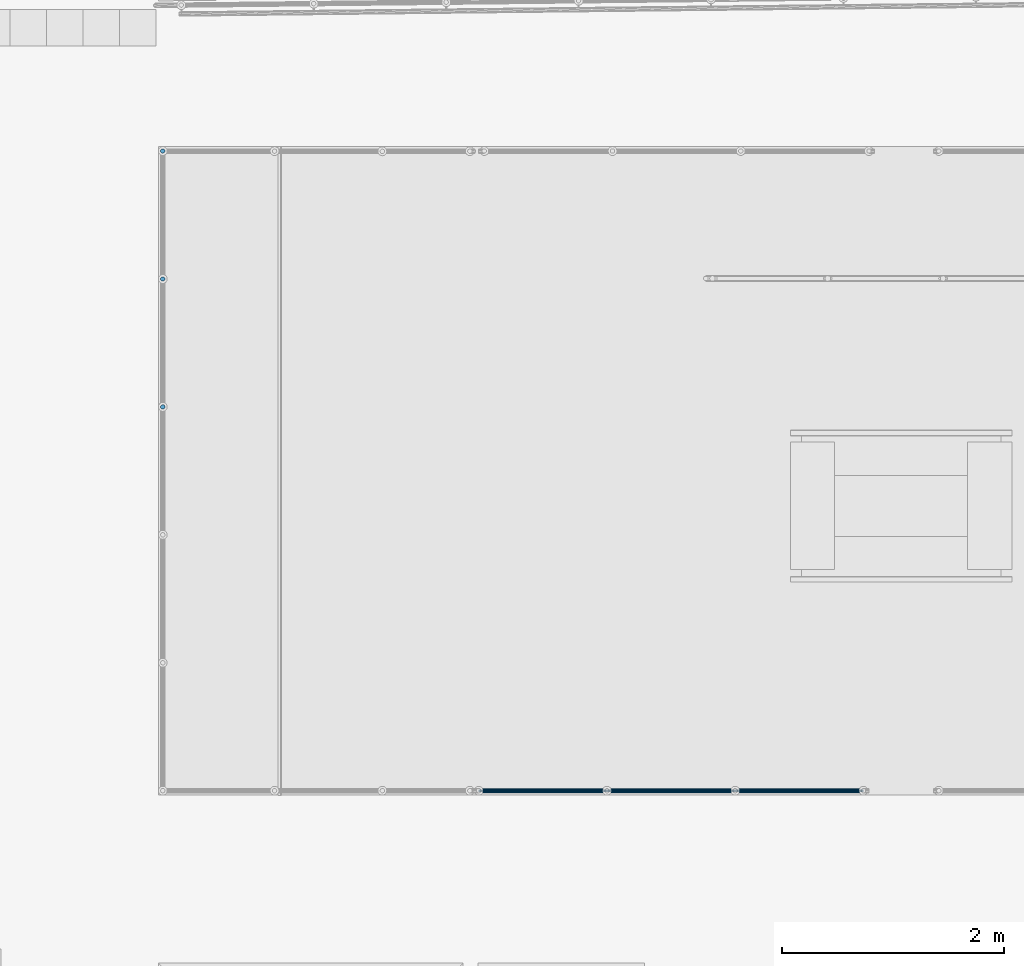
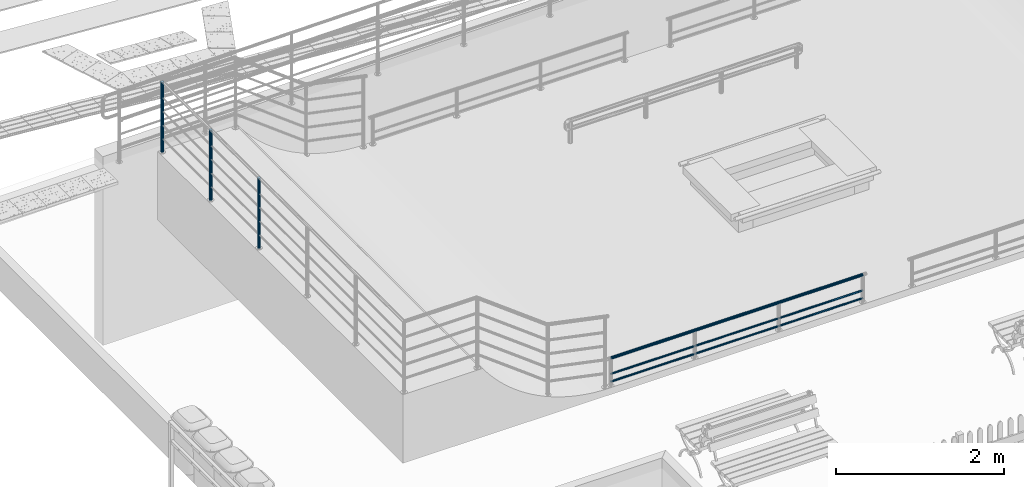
# One storey, part 31 of 237: 6 building element parts, 2 elements without a shape of their own.
"""IFC2X3 building model written with IfcOpenShell, lengths in millimetres."""

import ifcopenshell
import ifcopenshell.guid

model = None  # the IFC model being written
_history = None  # IfcOwnerHistory: only IFC2X3 demands one
_inside = {}  # id of a spatial element -> (the spatial element, [elements in it])
_under = {}  # id of a project, library or spatial element -> (it, [spatial elements below it])
_declared = {}  # id of a project -> (the project, [libraries it declares])
_typed = {}  # id of a type object -> (the type object, [elements of that type])
_made_of = {}  # id of a material, layer set ... -> (it, [elements and type objects made of it])


def new_model(schema):
    """Start an empty IFC model of exactly this schema.

    Asked for "IFC4X3", IfcOpenShell would pick the latest addendum, in which some entities
    have other attributes; the version numbers below select the first issue.
    IFC2X3 requires an IfcOwnerHistory on every rooted entity: one is made here for all.
    """
    global model, _history
    if schema == "IFC4X3":
        model = ifcopenshell.file(schema_version=(4, 3, 0, 0))
    else:
        model = ifcopenshell.file(schema=schema)
    _inside.clear()
    _under.clear()
    _declared.clear()
    _typed.clear()
    _made_of.clear()
    _history = None
    if model.schema == "IFC2X3":
        org = make("IfcOrganization", Name="unknown")
        user = make(
            "IfcPersonAndOrganization",
            ThePerson=make("IfcPerson", FamilyName="unknown"),
            TheOrganization=org,
        )
        app = make(
            "IfcApplication",
            ApplicationDeveloper=org,
            Version="unknown",
            ApplicationFullName="unknown",
            ApplicationIdentifier="unknown",
        )
        _history = make(
            "IfcOwnerHistory",
            OwningUser=user,
            OwningApplication=app,
            ChangeAction="ADDED",
            CreationDate=0,
        )
    return model


def make(cls, **values):
    """One entity of the class cls with the attributes given. An attribute that is None is left unset."""
    return model.create_entity(
        cls, **{name: value for name, value in values.items() if value is not None}
    )


def entity(cls, *values):
    """Any entity or typed value of the class cls, its attributes in the order of the schema. None: left unset."""
    e = model.create_entity(cls)
    for i, value in enumerate(values):
        if value is not None:
            e[i] = value
    return e


def rooted(cls, **values):
    """An entity with a GlobalId (a new one), such as an element, a storey or a relation."""
    return make(cls, GlobalId=ifcopenshell.guid.new(), OwnerHistory=_history, **values)


def si_unit(unit_type, name, prefix=None):
    """IfcSIUnit, for example si_unit("LENGTHUNIT", "METRE", prefix="MILLI")."""
    return make("IfcSIUnit", UnitType=unit_type, Prefix=prefix, Name=name)


def converted_unit(unit_type, name, factor, base, dimensions=None, offset=None):
    """IfcConversionBasedUnit, such as the inch: factor (a typed value) times the base unit."""
    return make(
        "IfcConversionBasedUnit"
        if offset is None
        else "IfcConversionBasedUnitWithOffset",
        ConversionOffset=offset,
        Dimensions=None
        if dimensions is None
        else entity("IfcDimensionalExponents", *dimensions),
        UnitType=unit_type,
        Name=name,
        ConversionFactor=make(
            "IfcMeasureWithUnit", ValueComponent=factor, UnitComponent=base
        ),
    )


def derived_unit(unit_type, elements):
    """IfcDerivedUnit: a product of units, each with its exponent."""
    return make(
        "IfcDerivedUnit",
        Elements=[
            make("IfcDerivedUnitElement", Unit=unit, Exponent=power)
            for unit, power in elements
        ],
        UnitType=unit_type,
    )


def money_unit(currency):
    """IfcMonetaryUnit."""
    return make("IfcMonetaryUnit", Currency=currency)


def assignment(units):
    """IfcUnitAssignment: the units of a project."""
    return None if units is None else make("IfcUnitAssignment", Units=units)


def point(xyz):
    """IfcCartesianPoint."""
    return None if xyz is None else make("IfcCartesianPoint", Coordinates=xyz)


def direction(xyz):
    """IfcDirection."""
    return None if xyz is None else make("IfcDirection", DirectionRatios=xyz)


def frame(location, z_axis=None, x_axis=None):
    """IfcAxis2Placement3D, a coordinate frame: its origin and axes. An axis left out is left unset."""
    return make(
        "IfcAxis2Placement3D",
        Location=point(location),
        Axis=direction(z_axis),
        RefDirection=direction(x_axis),
    )


def origin_with_axes():
    """The frame at (0, 0, 0) with the z axis (0, 0, 1) and the x axis (1, 0, 0) written out."""
    return frame((0.0, 0.0, 0.0), z_axis=(0.0, 0.0, 1.0), x_axis=(1.0, 0.0, 0.0))


def place(relative_to, where):
    """IfcLocalPlacement: puts the frame where relative to a parent placement (None: the world)."""
    return make(
        "IfcLocalPlacement", PlacementRelTo=relative_to, RelativePlacement=where
    )


def context(
    kind, dimensions, precision=None, world=None, true_north=None, identifier=None
):
    """IfcGeometricRepresentationContext, for example the 3D "Model" context."""
    return make(
        "IfcGeometricRepresentationContext",
        ContextIdentifier=identifier,
        ContextType=kind,
        CoordinateSpaceDimension=dimensions,
        Precision=precision,
        WorldCoordinateSystem=world,
        TrueNorth=true_north,
    )


def subcontext(parent, identifier, kind, view, scale=None):
    """IfcGeometricRepresentationSubContext, for example "Body" below "Model"."""
    return make(
        "IfcGeometricRepresentationSubContext",
        ContextIdentifier=identifier,
        ContextType=kind,
        ParentContext=parent,
        TargetScale=scale,
        TargetView=view,
    )


def project(units=None, contexts=None):
    """IfcProject with its units and contexts."""
    return rooted(
        "IfcProject",
        Name="project",
        RepresentationContexts=contexts,
        UnitsInContext=assignment(units),
    )


def spatial(cls, under=None, at=None, **own):
    """A site, building, storey or space (cls), placed at a placement, below another one or the project."""
    s = rooted(cls, ObjectPlacement=at, **own)
    if under is not None:
        _under.setdefault(under.id(), (under, []))[1].append(s)
    return s


def faces_of(points, faces, orient=None, outer=None):
    """IfcFace entities. A face is a list of loops; a loop is a list of indices into points, from 0.

    orient and outer hold one flag for each loop. By default every Orientation is true, the
    first loop of a face is its IfcFaceOuterBound and the others are IfcFaceBound.
    """
    made = []
    for i, loops in enumerate(faces):
        bounds = []
        for j, loop in enumerate(loops):
            is_outer = j == 0 if outer is None else outer[i][j]
            bounds.append(
                make(
                    "IfcFaceOuterBound" if is_outer else "IfcFaceBound",
                    Bound=make("IfcPolyLoop", Polygon=[points[k] for k in loop]),
                    Orientation=True if orient is None else orient[i][j],
                )
            )
        made.append(make("IfcFace", Bounds=bounds))
    return made


def faceted_brep(points, faces, orient=None, outer=None, voids=None):
    """IfcFacetedBrep: a solid bounded by flat faces; with voids (closed shells), ...WithVoids."""
    shared = [point(p) for p in points]
    hull = make("IfcClosedShell", CfsFaces=faces_of(shared, faces, orient, outer))
    if voids is None:
        return make("IfcFacetedBrep", Outer=hull)
    return make(
        "IfcFacetedBrepWithVoids",
        Outer=hull,
        Voids=[
            make(cls, CfsFaces=faces_of(shared, fs, o, b)) for cls, fs, o, b in voids
        ],
    )


def shape(context_of_items, identifier, shape_type, items):
    """IfcShapeRepresentation: the items that make up one representation, for example the "Body"."""
    return make(
        "IfcShapeRepresentation",
        ContextOfItems=context_of_items,
        RepresentationIdentifier=identifier,
        RepresentationType=shape_type,
        Items=items,
    )


def material(Name=None, Category=None):
    """IfcMaterial."""
    return make("IfcMaterial", Name=Name, Category=Category)


def made_of(thing, what):
    """Note that an element or type object is made of a material, layer set ...; save() writes the relation."""
    if what is not None:
        _made_of.setdefault(what.id(), (what, []))[1].append(thing)
    return thing


def type_object(cls, material=None, **own):
    """A type object (cls), such as IfcWallType, which elements share."""
    return made_of(rooted(cls, **own), material)


def element(
    cls,
    number,
    at=None,
    inside=None,
    cuts=None,
    type_object=None,
    material=None,
    context=None,
    identifier="Body",
    shape_type=None,
    held_by="IfcProductDefinitionShape",
    body=None,
    shapes=None,
    **own,
):
    """One element of the class cls, such as IfcWall. Its Tag is "e" and its number.

    at: its placement. inside: the storey or other place that contains it. cuts: it is an
    opening in that element (IfcRelVoidsElement). A single representation is given by context,
    identifier, shape_type and body (its items); several are given by shapes. held_by: the class
    of the entity that holds the representations. save() writes the other relations.
    """
    e = rooted(cls, Tag="e%d" % number, ObjectPlacement=at, **own)
    if body is not None:
        shapes = [shape(context, identifier, shape_type, body)]
    if shapes is not None:
        e.Representation = make(held_by, Representations=shapes)
    if inside is not None:
        _inside.setdefault(inside.id(), (inside, []))[1].append(e)
    if cuts is not None:
        rooted(
            "IfcRelVoidsElement", RelatingBuildingElement=cuts, RelatedOpeningElement=e
        )
    if type_object is not None:
        _typed.setdefault(type_object.id(), (type_object, []))[1].append(e)
    return made_of(e, material)


def aggregate(whole, parts):
    """IfcRelAggregates: a whole, such as a stair, and the parts it consists of."""
    return rooted("IfcRelAggregates", RelatingObject=whole, RelatedObjects=parts)


def save(model, path):
    """Write the relations noted so far, then the file.

    IfcRelAggregates (storeys below a building ...), IfcRelContainedInSpatialStructure (elements
    in a storey), IfcRelDefinesByType, IfcRelAssociatesMaterial and IfcRelDeclares: one each for
    every whole, place, type object, material and project.
    """
    for whole, parts in _under.values():
        aggregate(whole, parts)
    for where, things in _inside.values():
        rooted(
            "IfcRelContainedInSpatialStructure",
            RelatedElements=things,
            RelatingStructure=where,
        )
    for kind, things in _typed.values():
        rooted("IfcRelDefinesByType", RelatedObjects=things, RelatingType=kind)
    for what, things in _made_of.values():
        rooted("IfcRelAssociatesMaterial", RelatedObjects=things, RelatingMaterial=what)
    for by, libraries in _declared.values():
        rooted("IfcRelDeclares", RelatingContext=by, RelatedDefinitions=libraries)
    model.write(path)


model = new_model("IFC2X3")

# Units and contexts
model_context = context("Model", 3, precision=0.01, world=origin_with_axes(), true_north=direction((0.0, 1.0)))
body_context = subcontext(model_context, "Body", "Model", "MODEL_VIEW")
ifc_project = project(units=[si_unit("LENGTHUNIT", "METRE", prefix="MILLI"), si_unit("AREAUNIT", "SQUARE_METRE"), si_unit("VOLUMEUNIT", "CUBIC_METRE"), converted_unit("PLANEANGLEUNIT", "DEGREE", entity("IfcPlaneAngleMeasure", 0.0174532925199), si_unit("PLANEANGLEUNIT", "RADIAN"), dimensions=[0, 0, 0, 0, 0, 0, 0]), money_unit("USD"), converted_unit("TIMEUNIT", "Year", entity("IfcTimeMeasure", 31556926.0), si_unit("TIMEUNIT", "SECOND"), dimensions=[0, 0, 1, 0, 0, 0, 0]), si_unit("MASSUNIT", "GRAM", prefix="KILO"), si_unit("THERMODYNAMICTEMPERATUREUNIT", "DEGREE_CELSIUS"), si_unit("LUMINOUSINTENSITYUNIT", "LUMEN"), si_unit("ENERGYUNIT", "JOULE", prefix="MEGA"), derived_unit("THERMALCONDUCTANCEUNIT", [(si_unit("POWERUNIT", "WATT"), 1), (si_unit("LENGTHUNIT", "METRE"), -1), (si_unit("THERMODYNAMICTEMPERATUREUNIT", "KELVIN"), -1)]), derived_unit("SPECIFICHEATCAPACITYUNIT", [(si_unit("ENERGYUNIT", "JOULE"), 1), (si_unit("MASSUNIT", "GRAM", prefix="KILO"), -1), (si_unit("THERMODYNAMICTEMPERATUREUNIT", "KELVIN"), -1)]), derived_unit("MASSDENSITYUNIT", [(si_unit("MASSUNIT", "GRAM", prefix="KILO"), 1), (si_unit("VOLUMEUNIT", "CUBIC_METRE"), -1)])], contexts=[model_context])

# Site, building, storey
site_placement = place(None, origin_with_axes())
site = spatial("IfcSite", under=ifc_project, at=site_placement, Name="Local", CompositionType="ELEMENT")
building_placement = place(site_placement, origin_with_axes())
building = spatial("IfcBuilding", under=site, at=building_placement, Name="Construção", CompositionType="ELEMENT")
storey_placement = place(building_placement, origin_with_axes())
storey = spatial("IfcBuildingStorey", under=building, at=storey_placement, Name="Pavimento Térreo", CompositionType="ELEMENT", Elevation=0.0)

# Railing, building element parts
railing_type = type_object("IfcRailingType", Name="Tipo de Guarda-Corpo", PredefinedType="NOTDEFINED")
railing_1_placement = place(storey_placement, frame((53912.4440926, 33356.4497128, -1263.04952679), z_axis=(0.0, 0.0, 1.0), x_axis=(1.0, 0.0, 0.0)))
railing_1 = element("IfcRailing", 1, at=railing_1_placement, inside=storey, type_object=railing_type, Name="Guarda-Corpo - 001", PredefinedType="NOTDEFINED")
ifc_material = material(Name="Aço - Inoxidável")
building_element_part_1_placement = place(railing_1_placement, origin_with_axes())
building_element_part_1 = element("IfcBuildingElementPart", 2, at=building_element_part_1_placement, material=ifc_material, Name="Aço - Inoxidável", context=body_context, shape_type="Brep", body=[
    faceted_brep([(-2806.51268664, 518.151005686, 910.941330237), (-2809.98542789, 518.457380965, 910.941330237), (-2809.98542789, 518.457380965, 1935.94133024), (-2806.51268664, 518.151005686, 1935.94133024), (-2813.4586119, 518.156066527, 910.941330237), (-2803.14590564, 517.246249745, 910.941330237), (-2799.98738284, 515.770603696, 910.941330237), (-2797.13308833, 513.768904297, 910.941330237), (-2794.66974843, 511.30197217, 910.941330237), (-2792.67221047, 508.444763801, 910.941330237), (-2791.20116862, 505.284094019, 910.941330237), (-2790.30131975, 501.915998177, 910.941330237), (-2790.00000531, 498.442814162, 910.941330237), (-2790.30638059, 494.970072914, 910.941330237), (-2791.21113653, 491.603291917, 910.941330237), (-2792.68678258, 488.444769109, 910.941330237), (-2794.68848198, 485.590474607, 910.941330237), (-2797.1554141, 483.127134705, 910.941330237), (-2800.01262247, 481.12959674, 910.941330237), (-2803.17329226, 479.658554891, 910.941330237), (-2806.5413881, 478.758706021, 910.941330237), (-2810.01457211, 478.457391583, 910.941330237), (-2813.48731336, 478.763766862, 910.941330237), (-2816.85409436, 479.668522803, 910.941330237), (-2820.01261716, 481.144168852, 910.941330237), (-2822.86691167, 483.145868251, 910.941330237), (-2825.33025157, 485.612800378, 910.941330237), (-2827.32778953, 488.470008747, 910.941330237), (-2828.79883138, 491.630678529, 910.941330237), (-2829.69868025, 494.998774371, 910.941330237), (-2829.99999469, 498.471958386, 910.941330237), (-2829.69361941, 501.944699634, 910.941330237), (-2828.78886347, 505.311480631, 910.941330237), (-2827.31321742, 508.470003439, 910.941330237), (-2825.31151802, 511.324297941, 910.941330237), (-2822.8445859, 513.787637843, 910.941330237), (-2819.98737753, 515.785175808, 910.941330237), (-2816.82670774, 517.256217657, 910.941330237), (-2813.4586119, 518.156066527, 1935.94133024), (-2790.30638059, 494.970072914, 1935.94133024), (-2790.00000531, 498.442814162, 1935.94133024), (-2790.30131975, 501.915998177, 1935.94133024), (-2791.20116862, 505.284094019, 1935.94133024), (-2792.67221047, 508.444763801, 1935.94133024), (-2794.66974843, 511.30197217, 1935.94133024), (-2797.13308833, 513.768904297, 1935.94133024), (-2799.98738284, 515.770603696, 1935.94133024), (-2803.14590564, 517.246249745, 1935.94133024), (-2816.82670774, 517.256217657, 1935.94133024), (-2819.98737753, 515.785175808, 1935.94133024), (-2822.8445859, 513.787637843, 1935.94133024), (-2825.31151802, 511.324297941, 1935.94133024), (-2827.31321742, 508.470003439, 1935.94133024), (-2828.78886347, 505.311480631, 1935.94133024), (-2829.69361941, 501.944699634, 1935.94133024), (-2829.99999469, 498.471958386, 1935.94133024), (-2829.69868025, 494.998774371, 1935.94133024), (-2828.79883138, 491.630678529, 1935.94133024), (-2827.32778953, 488.470008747, 1935.94133024), (-2825.33025157, 485.612800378, 1935.94133024), (-2822.86691167, 483.145868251, 1935.94133024), (-2820.01261716, 481.144168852, 1935.94133024), (-2816.85409436, 479.668522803, 1935.94133024), (-2813.48731336, 478.763766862, 1935.94133024), (-2810.01457211, 478.457391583, 1935.94133024), (-2806.5413881, 478.758706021, 1935.94133024), (-2803.17329226, 479.658554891, 1935.94133024), (-2800.01262247, 481.12959674, 1935.94133024), (-2797.1554141, 483.127134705, 1935.94133024), (-2794.68848198, 485.590474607, 1935.94133024), (-2792.68678258, 488.444769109, 1935.94133024), (-2791.21113653, 491.603291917, 1935.94133024)], [[[0, 1, 2, 3]], [[4, 1, 0, 5, 6, 7, 8, 9, 10, 11, 12, 13, 14, 15, 16, 17, 18, 19, 20, 21, 22, 23, 24, 25, 26, 27, 28, 29, 30, 31, 32, 33, 34, 35, 36, 37]], [[1, 4, 38, 2]], [[39, 40, 41, 42, 43, 44, 45, 46, 47, 3, 2, 38, 48, 49, 50, 51, 52, 53, 54, 55, 56, 57, 58, 59, 60, 61, 62, 63, 64, 65, 66, 67, 68, 69, 70, 71]], [[5, 0, 3, 47]], [[6, 5, 47, 46]], [[7, 6, 46, 45]], [[8, 7, 45, 44]], [[9, 8, 44, 43]], [[10, 9, 43, 42]], [[11, 10, 42, 41]], [[12, 11, 41, 40]], [[13, 12, 40, 39]], [[14, 13, 39, 71]], [[15, 14, 71, 70]], [[16, 15, 70, 69]], [[17, 16, 69, 68]], [[18, 17, 68, 67]], [[19, 18, 67, 66]], [[20, 19, 66, 65]], [[21, 20, 65, 64]], [[22, 21, 64, 63]], [[23, 22, 63, 62]], [[24, 23, 62, 61]], [[25, 24, 61, 60]], [[26, 25, 60, 59]], [[27, 26, 59, 58]], [[28, 27, 58, 57]], [[29, 28, 57, 56]], [[30, 29, 56, 55]], [[31, 30, 55, 54]], [[32, 31, 54, 53]], [[33, 32, 53, 52]], [[34, 33, 52, 51]], [[35, 34, 51, 50]], [[36, 35, 50, 49]], [[37, 36, 49, 48]], [[4, 37, 48, 38]]]),
])
building_element_part_2_placement = place(railing_1_placement, origin_with_axes())
building_element_part_2 = element("IfcBuildingElementPart", 3, at=building_element_part_2_placement, material=ifc_material, Name="Aço - Inoxidável", context=body_context, shape_type="Brep", body=[
    faceted_brep([(-2829.69615506, -652.063819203, 910.941330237), (-2830.0, -655.536782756, 910.941330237), (-2830.0, -655.536782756, 1935.94133024), (-2829.69615506, -652.063819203, 1935.94133024), (-2829.69615506, -659.00974631, 910.941330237), (-2828.79385242, -648.69637989, 910.941330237), (-2827.32050808, -645.536782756, 910.941330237), (-2825.32088886, -642.681030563, 910.941330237), (-2822.85575219, -640.215893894, 910.941330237), (-2820.0, -638.216274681, 910.941330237), (-2816.84040287, -636.742930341, 910.941330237), (-2813.47296355, -635.840627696, 910.941330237), (-2810.0, -635.536782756, 910.941330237), (-2806.52703645, -635.840627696, 910.941330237), (-2803.15959713, -636.742930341, 910.941330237), (-2800.0, -638.216274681, 910.941330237), (-2797.14424781, -640.215893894, 910.941330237), (-2794.67911114, -642.681030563, 910.941330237), (-2792.67949192, -645.536782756, 910.941330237), (-2791.20614758, -648.69637989, 910.941330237), (-2790.30384494, -652.063819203, 910.941330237), (-2790.0, -655.536782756, 910.941330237), (-2790.30384494, -659.00974631, 910.941330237), (-2791.20614758, -662.377185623, 910.941330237), (-2792.67949192, -665.536782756, 910.941330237), (-2794.67911114, -668.39253495, 910.941330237), (-2797.14424781, -670.857671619, 910.941330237), (-2800.0, -672.857290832, 910.941330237), (-2803.15959713, -674.330635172, 910.941330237), (-2806.52703645, -675.232937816, 910.941330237), (-2810.0, -675.536782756, 910.941330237), (-2813.47296355, -675.232937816, 910.941330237), (-2816.84040287, -674.330635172, 910.941330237), (-2820.0, -672.857290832, 910.941330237), (-2822.85575219, -670.857671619, 910.941330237), (-2825.32088886, -668.39253495, 910.941330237), (-2827.32050808, -665.536782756, 910.941330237), (-2828.79385242, -662.377185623, 910.941330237), (-2829.69615506, -659.00974631, 1935.94133024), (-2806.52703645, -635.840627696, 1935.94133024), (-2810.0, -635.536782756, 1935.94133024), (-2813.47296355, -635.840627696, 1935.94133024), (-2816.84040287, -636.742930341, 1935.94133024), (-2820.0, -638.216274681, 1935.94133024), (-2822.85575219, -640.215893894, 1935.94133024), (-2825.32088886, -642.681030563, 1935.94133024), (-2827.32050808, -645.536782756, 1935.94133024), (-2828.79385242, -648.69637989, 1935.94133024), (-2828.79385242, -662.377185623, 1935.94133024), (-2827.32050808, -665.536782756, 1935.94133024), (-2825.32088886, -668.39253495, 1935.94133024), (-2822.85575219, -670.857671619, 1935.94133024), (-2820.0, -672.857290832, 1935.94133024), (-2816.84040287, -674.330635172, 1935.94133024), (-2813.47296355, -675.232937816, 1935.94133024), (-2810.0, -675.536782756, 1935.94133024), (-2806.52703645, -675.232937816, 1935.94133024), (-2803.15959713, -674.330635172, 1935.94133024), (-2800.0, -672.857290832, 1935.94133024), (-2797.14424781, -670.857671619, 1935.94133024), (-2794.67911114, -668.39253495, 1935.94133024), (-2792.67949192, -665.536782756, 1935.94133024), (-2791.20614758, -662.377185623, 1935.94133024), (-2790.30384494, -659.00974631, 1935.94133024), (-2790.0, -655.536782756, 1935.94133024), (-2790.30384494, -652.063819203, 1935.94133024), (-2791.20614758, -648.69637989, 1935.94133024), (-2792.67949192, -645.536782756, 1935.94133024), (-2794.67911114, -642.681030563, 1935.94133024), (-2797.14424781, -640.215893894, 1935.94133024), (-2800.0, -638.216274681, 1935.94133024), (-2803.15959713, -636.742930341, 1935.94133024)], [[[0, 1, 2, 3]], [[4, 1, 0, 5, 6, 7, 8, 9, 10, 11, 12, 13, 14, 15, 16, 17, 18, 19, 20, 21, 22, 23, 24, 25, 26, 27, 28, 29, 30, 31, 32, 33, 34, 35, 36, 37]], [[1, 4, 38, 2]], [[39, 40, 41, 42, 43, 44, 45, 46, 47, 3, 2, 38, 48, 49, 50, 51, 52, 53, 54, 55, 56, 57, 58, 59, 60, 61, 62, 63, 64, 65, 66, 67, 68, 69, 70, 71]], [[5, 0, 3, 47]], [[6, 5, 47, 46]], [[7, 6, 46, 45]], [[8, 7, 45, 44]], [[9, 8, 44, 43]], [[10, 9, 43, 42]], [[11, 10, 42, 41]], [[12, 11, 41, 40]], [[13, 12, 40, 39]], [[14, 13, 39, 71]], [[15, 14, 71, 70]], [[16, 15, 70, 69]], [[17, 16, 69, 68]], [[18, 17, 68, 67]], [[19, 18, 67, 66]], [[20, 19, 66, 65]], [[21, 20, 65, 64]], [[22, 21, 64, 63]], [[23, 22, 63, 62]], [[24, 23, 62, 61]], [[25, 24, 61, 60]], [[26, 25, 60, 59]], [[27, 26, 59, 58]], [[28, 27, 58, 57]], [[29, 28, 57, 56]], [[30, 29, 56, 55]], [[31, 30, 55, 54]], [[32, 31, 54, 53]], [[33, 32, 53, 52]], [[34, 33, 52, 51]], [[35, 34, 51, 50]], [[36, 35, 50, 49]], [[37, 36, 49, 48]], [[4, 37, 48, 38]]]),
])
building_element_part_3_placement = place(railing_1_placement, origin_with_axes())
building_element_part_3 = element("IfcBuildingElementPart", 4, at=building_element_part_3_placement, material=ifc_material, Name="Aço - Inoxidável", context=body_context, shape_type="Brep", body=[
    faceted_brep([(-2829.69615506, -1806.05798823, 910.941330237), (-2830.0, -1809.53095179, 910.941330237), (-2830.0, -1809.53095179, 1935.94133024), (-2829.69615506, -1806.05798823, 1935.94133024), (-2829.69615506, -1813.00391534, 910.941330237), (-2828.79385242, -1802.69054892, 910.941330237), (-2827.32050808, -1799.53095179, 910.941330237), (-2825.32088886, -1796.67519959, 910.941330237), (-2822.85575219, -1794.21006292, 910.941330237), (-2820.0, -1792.21044371, 910.941330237), (-2816.84040287, -1790.73709937, 910.941330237), (-2813.47296355, -1789.83479673, 910.941330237), (-2810.0, -1789.53095179, 910.941330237), (-2806.52703645, -1789.83479673, 910.941330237), (-2803.15959713, -1790.73709937, 910.941330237), (-2800.0, -1792.21044371, 910.941330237), (-2797.14424781, -1794.21006292, 910.941330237), (-2794.67911114, -1796.67519959, 910.941330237), (-2792.67949192, -1799.53095179, 910.941330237), (-2791.20614758, -1802.69054892, 910.941330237), (-2790.30384494, -1806.05798823, 910.941330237), (-2790.0, -1809.53095179, 910.941330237), (-2790.30384494, -1813.00391534, 910.941330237), (-2791.20614758, -1816.37135465, 910.941330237), (-2792.67949192, -1819.53095179, 910.941330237), (-2794.67911114, -1822.38670398, 910.941330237), (-2797.14424781, -1824.85184065, 910.941330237), (-2800.0, -1826.85145986, 910.941330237), (-2803.15959713, -1828.3248042, 910.941330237), (-2806.52703645, -1829.22710685, 910.941330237), (-2810.0, -1829.53095179, 910.941330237), (-2813.47296355, -1829.22710685, 910.941330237), (-2816.84040287, -1828.3248042, 910.941330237), (-2820.0, -1826.85145986, 910.941330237), (-2822.85575219, -1824.85184065, 910.941330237), (-2825.32088886, -1822.38670398, 910.941330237), (-2827.32050808, -1819.53095179, 910.941330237), (-2828.79385242, -1816.37135465, 910.941330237), (-2829.69615506, -1813.00391534, 1935.94133024), (-2806.52703645, -1789.83479673, 1935.94133024), (-2810.0, -1789.53095179, 1935.94133024), (-2813.47296355, -1789.83479673, 1935.94133024), (-2816.84040287, -1790.73709937, 1935.94133024), (-2820.0, -1792.21044371, 1935.94133024), (-2822.85575219, -1794.21006292, 1935.94133024), (-2825.32088886, -1796.67519959, 1935.94133024), (-2827.32050808, -1799.53095179, 1935.94133024), (-2828.79385242, -1802.69054892, 1935.94133024), (-2828.79385242, -1816.37135465, 1935.94133024), (-2827.32050808, -1819.53095179, 1935.94133024), (-2825.32088886, -1822.38670398, 1935.94133024), (-2822.85575219, -1824.85184065, 1935.94133024), (-2820.0, -1826.85145986, 1935.94133024), (-2816.84040287, -1828.3248042, 1935.94133024), (-2813.47296355, -1829.22710685, 1935.94133024), (-2810.0, -1829.53095179, 1935.94133024), (-2806.52703645, -1829.22710685, 1935.94133024), (-2803.15959713, -1828.3248042, 1935.94133024), (-2800.0, -1826.85145986, 1935.94133024), (-2797.14424781, -1824.85184065, 1935.94133024), (-2794.67911114, -1822.38670398, 1935.94133024), (-2792.67949192, -1819.53095179, 1935.94133024), (-2791.20614758, -1816.37135465, 1935.94133024), (-2790.30384494, -1813.00391534, 1935.94133024), (-2790.0, -1809.53095179, 1935.94133024), (-2790.30384494, -1806.05798823, 1935.94133024), (-2791.20614758, -1802.69054892, 1935.94133024), (-2792.67949192, -1799.53095179, 1935.94133024), (-2794.67911114, -1796.67519959, 1935.94133024), (-2797.14424781, -1794.21006292, 1935.94133024), (-2800.0, -1792.21044371, 1935.94133024), (-2803.15959713, -1790.73709937, 1935.94133024)], [[[0, 1, 2, 3]], [[4, 1, 0, 5, 6, 7, 8, 9, 10, 11, 12, 13, 14, 15, 16, 17, 18, 19, 20, 21, 22, 23, 24, 25, 26, 27, 28, 29, 30, 31, 32, 33, 34, 35, 36, 37]], [[1, 4, 38, 2]], [[39, 40, 41, 42, 43, 44, 45, 46, 47, 3, 2, 38, 48, 49, 50, 51, 52, 53, 54, 55, 56, 57, 58, 59, 60, 61, 62, 63, 64, 65, 66, 67, 68, 69, 70, 71]], [[5, 0, 3, 47]], [[6, 5, 47, 46]], [[7, 6, 46, 45]], [[8, 7, 45, 44]], [[9, 8, 44, 43]], [[10, 9, 43, 42]], [[11, 10, 42, 41]], [[12, 11, 41, 40]], [[13, 12, 40, 39]], [[14, 13, 39, 71]], [[15, 14, 71, 70]], [[16, 15, 70, 69]], [[17, 16, 69, 68]], [[18, 17, 68, 67]], [[19, 18, 67, 66]], [[20, 19, 66, 65]], [[21, 20, 65, 64]], [[22, 21, 64, 63]], [[23, 22, 63, 62]], [[24, 23, 62, 61]], [[25, 24, 61, 60]], [[26, 25, 60, 59]], [[27, 26, 59, 58]], [[28, 27, 58, 57]], [[29, 28, 57, 56]], [[30, 29, 56, 55]], [[31, 30, 55, 54]], [[32, 31, 54, 53]], [[33, 32, 53, 52]], [[34, 33, 52, 51]], [[35, 34, 51, 50]], [[36, 35, 50, 49]], [[37, 36, 49, 48]], [[4, 37, 48, 38]]]),
])
aggregate(railing_1, [building_element_part_1, building_element_part_2, building_element_part_3])

railing_2_placement = place(storey_placement, frame((53912.4440926, 28006.4497128, -1887.10818411), z_axis=(0.0, 0.0, 1.0), x_axis=(1.0, 0.0, 0.0)))
railing_2 = element("IfcRailing", 5, at=railing_2_placement, inside=storey, type_object=railing_type, Name="Guarda-Corpo - 002", PredefinedType="NOTDEFINED")
building_element_part_4_placement = place(railing_2_placement, origin_with_axes())
building_element_part_4 = element("IfcBuildingElementPart", 6, at=building_element_part_4_placement, material=ifc_material, Name="Aço - Inoxidável", context=body_context, shape_type="Brep", body=[
    faceted_brep([(40.0, 98.4865411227, 1030.0), (40.0, 98.182696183, 1033.47296355), (3510.0, 98.182696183, 1033.47296355), (3510.0, 98.4865411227, 1030.0), (40.0, 98.182696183, 1026.52703645), (40.0, 97.2803935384, 1023.15959713), (40.0, 95.8070491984, 1020.0), (40.0, 93.8074299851, 1017.14424781), (40.0, 91.3422933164, 1014.67911114), (40.0, 88.4865411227, 1012.67949192), (40.0, 85.3269439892, 1011.20614758), (40.0, 81.9595046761, 1010.30384494), (40.0, 78.4865411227, 1010.0), (40.0, 75.0135775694, 1010.30384494), (40.0, 71.6461382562, 1011.20614758), (40.0, 68.4865411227, 1012.67949192), (40.0, 65.630788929, 1014.67911114), (40.0, 63.1656522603, 1017.14424781), (40.0, 61.166033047, 1020.0), (40.0, 59.692688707, 1023.15959713), (40.0, 58.7903860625, 1026.52703645), (40.0, 58.4865411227, 1030.0), (40.0, 58.7903860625, 1033.47296355), (40.0, 59.692688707, 1036.84040287), (40.0, 61.166033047, 1040.0), (40.0, 63.1656522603, 1042.85575219), (40.0, 65.630788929, 1045.32088886), (40.0, 68.4865411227, 1047.32050808), (40.0, 71.6461382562, 1048.79385242), (40.0, 75.0135775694, 1049.69615506), (40.0, 78.4865411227, 1050.0), (40.0, 81.9595046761, 1049.69615506), (40.0, 85.3269439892, 1048.79385242), (40.0, 88.4865411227, 1047.32050808), (40.0, 91.3422933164, 1045.32088886), (40.0, 93.8074299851, 1042.85575219), (40.0, 95.8070491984, 1040.0), (40.0, 97.2803935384, 1036.84040287), (3510.0, 97.2803935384, 1036.84040287), (3510.0, 95.8070491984, 1040.0), (3510.0, 93.8074299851, 1042.85575219), (3510.0, 91.3422933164, 1045.32088886), (3510.0, 88.4865411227, 1047.32050808), (3510.0, 85.3269439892, 1048.79385242), (3510.0, 81.9595046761, 1049.69615506), (3510.0, 78.4865411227, 1050.0), (3510.0, 75.0135775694, 1049.69615506), (3510.0, 71.6461382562, 1048.79385242), (3510.0, 68.4865411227, 1047.32050808), (3510.0, 65.630788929, 1045.32088886), (3510.0, 63.1656522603, 1042.85575219), (3510.0, 61.166033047, 1040.0), (3510.0, 59.692688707, 1036.84040287), (3510.0, 58.7903860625, 1033.47296355), (3510.0, 58.4865411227, 1030.0), (3510.0, 58.7903860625, 1026.52703645), (3510.0, 59.692688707, 1023.15959713), (3510.0, 61.166033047, 1020.0), (3510.0, 63.1656522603, 1017.14424781), (3510.0, 65.630788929, 1014.67911114), (3510.0, 68.4865411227, 1012.67949192), (3510.0, 71.6461382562, 1011.20614758), (3510.0, 75.0135775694, 1010.30384494), (3510.0, 78.4865411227, 1010.0), (3510.0, 81.9595046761, 1010.30384494), (3510.0, 85.3269439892, 1011.20614758), (3510.0, 88.4865411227, 1012.67949192), (3510.0, 91.3422933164, 1014.67911114), (3510.0, 93.8074299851, 1017.14424781), (3510.0, 95.8070491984, 1020.0), (3510.0, 97.2803935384, 1023.15959713), (3510.0, 98.182696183, 1026.52703645)], [[[0, 1, 2, 3]], [[0, 4, 5, 6, 7, 8, 9, 10, 11, 12, 13, 14, 15, 16, 17, 18, 19, 20, 21, 22, 23, 24, 25, 26, 27, 28, 29, 30, 31, 32, 33, 34, 35, 36, 37, 1]], [[1, 37, 38, 2]], [[3, 2, 38, 39, 40, 41, 42, 43, 44, 45, 46, 47, 48, 49, 50, 51, 52, 53, 54, 55, 56, 57, 58, 59, 60, 61, 62, 63, 64, 65, 66, 67, 68, 69, 70, 71]], [[4, 0, 3, 71]], [[5, 4, 71, 70]], [[6, 5, 70, 69]], [[7, 6, 69, 68]], [[8, 7, 68, 67]], [[9, 8, 67, 66]], [[10, 9, 66, 65]], [[11, 10, 65, 64]], [[12, 11, 64, 63]], [[13, 12, 63, 62]], [[14, 13, 62, 61]], [[15, 14, 61, 60]], [[16, 15, 60, 59]], [[17, 16, 59, 58]], [[18, 17, 58, 57]], [[19, 18, 57, 56]], [[20, 19, 56, 55]], [[21, 20, 55, 54]], [[22, 21, 54, 53]], [[23, 22, 53, 52]], [[24, 23, 52, 51]], [[25, 24, 51, 50]], [[26, 25, 50, 49]], [[27, 26, 49, 48]], [[28, 27, 48, 47]], [[29, 28, 47, 46]], [[30, 29, 46, 45]], [[31, 30, 45, 44]], [[32, 31, 44, 43]], [[33, 32, 43, 42]], [[34, 33, 42, 41]], [[35, 34, 41, 40]], [[36, 35, 40, 39]], [[37, 36, 39, 38]]]),
])
building_element_part_5_placement = place(railing_2_placement, origin_with_axes())
building_element_part_5 = element("IfcBuildingElementPart", 7, at=building_element_part_5_placement, material=ifc_material, Name="Aço - Inoxidável", context=body_context, shape_type="Brep", body=[
    faceted_brep([(40.0, 88.4865411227, 687.132352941), (40.0, 88.3346186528, 688.868834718), (3510.0, 88.3346186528, 688.868834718), (3510.0, 88.4865411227, 687.132352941), (40.0, 88.3346186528, 685.395871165), (40.0, 87.8834673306, 683.712151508), (40.0, 87.1467951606, 682.132352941), (40.0, 86.1469855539, 680.704476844), (40.0, 84.9144172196, 679.47190851), (40.0, 83.4865411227, 678.472098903), (40.0, 81.906742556, 677.735426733), (40.0, 80.2230228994, 677.284275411), (40.0, 78.4865411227, 677.132352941), (40.0, 76.7500593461, 677.284275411), (40.0, 75.0663396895, 677.735426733), (40.0, 73.4865411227, 678.472098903), (40.0, 72.0586650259, 679.47190851), (40.0, 70.8260966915, 680.704476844), (40.0, 69.8262870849, 682.132352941), (40.0, 69.0896149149, 683.712151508), (40.0, 68.6384635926, 685.395871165), (40.0, 68.4865411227, 687.132352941), (40.0, 68.6384635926, 688.868834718), (40.0, 69.0896149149, 690.552554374), (40.0, 69.8262870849, 692.132352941), (40.0, 70.8260966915, 693.560229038), (40.0, 72.0586650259, 694.792797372), (40.0, 73.4865411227, 695.792606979), (40.0, 75.0663396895, 696.529279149), (40.0, 76.7500593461, 696.980430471), (40.0, 78.4865411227, 697.132352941), (40.0, 80.2230228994, 696.980430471), (40.0, 81.906742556, 696.529279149), (40.0, 83.4865411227, 695.792606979), (40.0, 84.9144172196, 694.792797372), (40.0, 86.1469855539, 693.560229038), (40.0, 87.1467951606, 692.132352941), (40.0, 87.8834673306, 690.552554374), (3510.0, 87.8834673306, 690.552554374), (3510.0, 87.1467951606, 692.132352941), (3510.0, 86.1469855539, 693.560229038), (3510.0, 84.9144172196, 694.792797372), (3510.0, 83.4865411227, 695.792606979), (3510.0, 81.906742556, 696.529279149), (3510.0, 80.2230228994, 696.980430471), (3510.0, 78.4865411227, 697.132352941), (3510.0, 76.7500593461, 696.980430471), (3510.0, 75.0663396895, 696.529279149), (3510.0, 73.4865411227, 695.792606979), (3510.0, 72.0586650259, 694.792797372), (3510.0, 70.8260966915, 693.560229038), (3510.0, 69.8262870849, 692.132352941), (3510.0, 69.0896149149, 690.552554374), (3510.0, 68.6384635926, 688.868834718), (3510.0, 68.4865411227, 687.132352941), (3510.0, 68.6384635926, 685.395871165), (3510.0, 69.0896149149, 683.712151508), (3510.0, 69.8262870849, 682.132352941), (3510.0, 70.8260966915, 680.704476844), (3510.0, 72.0586650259, 679.47190851), (3510.0, 73.4865411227, 678.472098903), (3510.0, 75.0663396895, 677.735426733), (3510.0, 76.7500593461, 677.284275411), (3510.0, 78.4865411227, 677.132352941), (3510.0, 80.2230228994, 677.284275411), (3510.0, 81.906742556, 677.735426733), (3510.0, 83.4865411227, 678.472098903), (3510.0, 84.9144172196, 679.47190851), (3510.0, 86.1469855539, 680.704476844), (3510.0, 87.1467951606, 682.132352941), (3510.0, 87.8834673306, 683.712151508), (3510.0, 88.3346186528, 685.395871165)], [[[0, 1, 2, 3]], [[0, 4, 5, 6, 7, 8, 9, 10, 11, 12, 13, 14, 15, 16, 17, 18, 19, 20, 21, 22, 23, 24, 25, 26, 27, 28, 29, 30, 31, 32, 33, 34, 35, 36, 37, 1]], [[1, 37, 38, 2]], [[3, 2, 38, 39, 40, 41, 42, 43, 44, 45, 46, 47, 48, 49, 50, 51, 52, 53, 54, 55, 56, 57, 58, 59, 60, 61, 62, 63, 64, 65, 66, 67, 68, 69, 70, 71]], [[4, 0, 3, 71]], [[5, 4, 71, 70]], [[6, 5, 70, 69]], [[7, 6, 69, 68]], [[8, 7, 68, 67]], [[9, 8, 67, 66]], [[10, 9, 66, 65]], [[11, 10, 65, 64]], [[12, 11, 64, 63]], [[13, 12, 63, 62]], [[14, 13, 62, 61]], [[15, 14, 61, 60]], [[16, 15, 60, 59]], [[17, 16, 59, 58]], [[18, 17, 58, 57]], [[19, 18, 57, 56]], [[20, 19, 56, 55]], [[21, 20, 55, 54]], [[22, 21, 54, 53]], [[23, 22, 53, 52]], [[24, 23, 52, 51]], [[25, 24, 51, 50]], [[26, 25, 50, 49]], [[27, 26, 49, 48]], [[28, 27, 48, 47]], [[29, 28, 47, 46]], [[30, 29, 46, 45]], [[31, 30, 45, 44]], [[32, 31, 44, 43]], [[33, 32, 43, 42]], [[34, 33, 42, 41]], [[35, 34, 41, 40]], [[36, 35, 40, 39]], [[37, 36, 39, 38]]]),
])
building_element_part_6_placement = place(railing_2_placement, origin_with_axes())
building_element_part_6 = element("IfcBuildingElementPart", 8, at=building_element_part_6_placement, material=ifc_material, Name="Aço - Inoxidável", context=body_context, shape_type="Brep", body=[
    faceted_brep([(40.0, 88.4865411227, 800.0), (40.0, 88.3346186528, 801.736481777), (3510.0, 88.3346186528, 801.736481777), (3510.0, 88.4865411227, 800.0), (40.0, 88.3346186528, 798.263518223), (40.0, 87.8834673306, 796.579798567), (40.0, 87.1467951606, 795.0), (40.0, 86.1469855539, 793.572123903), (40.0, 84.9144172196, 792.339555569), (40.0, 83.4865411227, 791.339745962), (40.0, 81.906742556, 790.603073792), (40.0, 80.2230228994, 790.15192247), (40.0, 78.4865411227, 790.0), (40.0, 76.7500593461, 790.15192247), (40.0, 75.0663396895, 790.603073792), (40.0, 73.4865411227, 791.339745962), (40.0, 72.0586650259, 792.339555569), (40.0, 70.8260966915, 793.572123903), (40.0, 69.8262870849, 795.0), (40.0, 69.0896149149, 796.579798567), (40.0, 68.6384635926, 798.263518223), (40.0, 68.4865411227, 800.0), (40.0, 68.6384635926, 801.736481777), (40.0, 69.0896149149, 803.420201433), (40.0, 69.8262870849, 805.0), (40.0, 70.8260966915, 806.427876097), (40.0, 72.0586650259, 807.660444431), (40.0, 73.4865411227, 808.660254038), (40.0, 75.0663396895, 809.396926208), (40.0, 76.7500593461, 809.84807753), (40.0, 78.4865411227, 810.0), (40.0, 80.2230228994, 809.84807753), (40.0, 81.906742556, 809.396926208), (40.0, 83.4865411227, 808.660254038), (40.0, 84.9144172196, 807.660444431), (40.0, 86.1469855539, 806.427876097), (40.0, 87.1467951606, 805.0), (40.0, 87.8834673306, 803.420201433), (3510.0, 87.8834673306, 803.420201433), (3510.0, 87.1467951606, 805.0), (3510.0, 86.1469855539, 806.427876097), (3510.0, 84.9144172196, 807.660444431), (3510.0, 83.4865411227, 808.660254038), (3510.0, 81.906742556, 809.396926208), (3510.0, 80.2230228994, 809.84807753), (3510.0, 78.4865411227, 810.0), (3510.0, 76.7500593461, 809.84807753), (3510.0, 75.0663396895, 809.396926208), (3510.0, 73.4865411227, 808.660254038), (3510.0, 72.0586650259, 807.660444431), (3510.0, 70.8260966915, 806.427876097), (3510.0, 69.8262870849, 805.0), (3510.0, 69.0896149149, 803.420201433), (3510.0, 68.6384635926, 801.736481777), (3510.0, 68.4865411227, 800.0), (3510.0, 68.6384635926, 798.263518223), (3510.0, 69.0896149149, 796.579798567), (3510.0, 69.8262870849, 795.0), (3510.0, 70.8260966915, 793.572123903), (3510.0, 72.0586650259, 792.339555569), (3510.0, 73.4865411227, 791.339745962), (3510.0, 75.0663396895, 790.603073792), (3510.0, 76.7500593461, 790.15192247), (3510.0, 78.4865411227, 790.0), (3510.0, 80.2230228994, 790.15192247), (3510.0, 81.906742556, 790.603073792), (3510.0, 83.4865411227, 791.339745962), (3510.0, 84.9144172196, 792.339555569), (3510.0, 86.1469855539, 793.572123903), (3510.0, 87.1467951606, 795.0), (3510.0, 87.8834673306, 796.579798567), (3510.0, 88.3346186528, 798.263518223)], [[[0, 1, 2, 3]], [[0, 4, 5, 6, 7, 8, 9, 10, 11, 12, 13, 14, 15, 16, 17, 18, 19, 20, 21, 22, 23, 24, 25, 26, 27, 28, 29, 30, 31, 32, 33, 34, 35, 36, 37, 1]], [[1, 37, 38, 2]], [[3, 2, 38, 39, 40, 41, 42, 43, 44, 45, 46, 47, 48, 49, 50, 51, 52, 53, 54, 55, 56, 57, 58, 59, 60, 61, 62, 63, 64, 65, 66, 67, 68, 69, 70, 71]], [[4, 0, 3, 71]], [[5, 4, 71, 70]], [[6, 5, 70, 69]], [[7, 6, 69, 68]], [[8, 7, 68, 67]], [[9, 8, 67, 66]], [[10, 9, 66, 65]], [[11, 10, 65, 64]], [[12, 11, 64, 63]], [[13, 12, 63, 62]], [[14, 13, 62, 61]], [[15, 14, 61, 60]], [[16, 15, 60, 59]], [[17, 16, 59, 58]], [[18, 17, 58, 57]], [[19, 18, 57, 56]], [[20, 19, 56, 55]], [[21, 20, 55, 54]], [[22, 21, 54, 53]], [[23, 22, 53, 52]], [[24, 23, 52, 51]], [[25, 24, 51, 50]], [[26, 25, 50, 49]], [[27, 26, 49, 48]], [[28, 27, 48, 47]], [[29, 28, 47, 46]], [[30, 29, 46, 45]], [[31, 30, 45, 44]], [[32, 31, 44, 43]], [[33, 32, 43, 42]], [[34, 33, 42, 41]], [[35, 34, 41, 40]], [[36, 35, 40, 39]], [[37, 36, 39, 38]]]),
])
aggregate(railing_2, [building_element_part_4, building_element_part_5, building_element_part_6])

save(model, "model.ifc")
